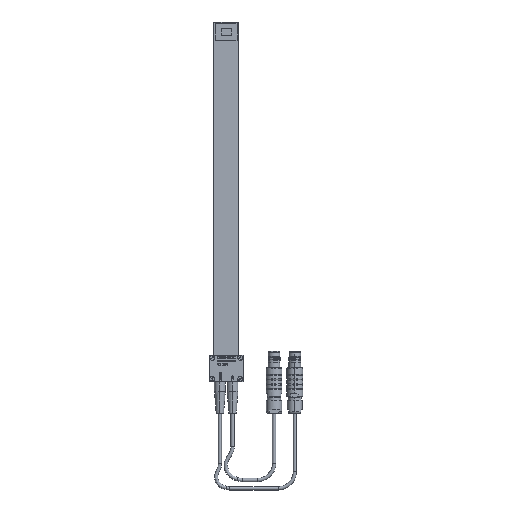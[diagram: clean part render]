
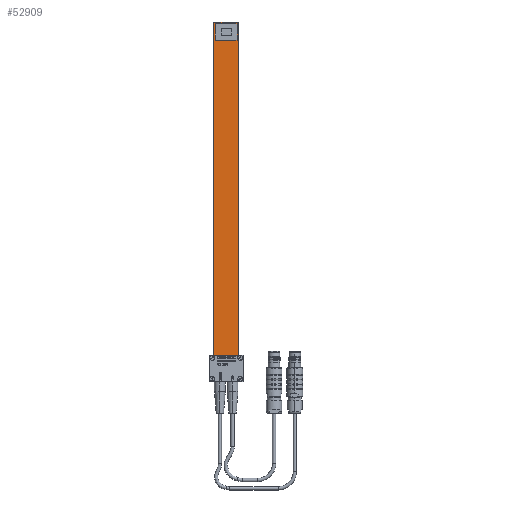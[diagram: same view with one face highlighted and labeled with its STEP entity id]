
A CAD part, top view. The second image highlights one B-rep face of the part: STEP entity #52909.
In plain terms, the highlighted planar face has unit normal (0, 0, 1) as drawn and (0, 1, 0) by its records, which use the part's own axes.
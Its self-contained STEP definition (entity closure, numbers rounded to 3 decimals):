
#52296=DIRECTION('',(0.,0.,1.));
#52297=VECTOR('',#52296,13.);
#52298=CARTESIAN_POINT('',(205.1,0.435,-6.5));
#52299=LINE('',#52298,#52297);
#52303=DIRECTION('',(1.,0.,0.));
#52304=VECTOR('',#52303,9.9);
#52305=CARTESIAN_POINT('',(205.1,0.435,6.5));
#52306=LINE('',#52305,#52304);
#52310=DIRECTION('',(0.,0.,-1.));
#52311=VECTOR('',#52310,13.);
#52312=CARTESIAN_POINT('',(215.,0.435,6.5));
#52313=LINE('',#52312,#52311);
#52317=DIRECTION('',(-1.,0.,0.));
#52318=VECTOR('',#52317,9.9);
#52319=CARTESIAN_POINT('',(215.,0.435,-6.5));
#52320=LINE('',#52319,#52318);
#52352=DIRECTION('',(-1.,0.,0.));
#52353=VECTOR('',#52352,16.);
#52354=CARTESIAN_POINT('',(16.,0.435,-10.));
#52355=LINE('',#52354,#52353);
#52359=DIRECTION('',(0.,0.,-1.));
#52360=VECTOR('',#52359,2.5);
#52361=CARTESIAN_POINT('',(16.,0.435,-7.5));
#52362=LINE('',#52361,#52360);
#52366=DIRECTION('',(-1.,0.,0.));
#52367=VECTOR('',#52366,200.);
#52368=CARTESIAN_POINT('',(216.,0.435,-7.5));
#52369=LINE('',#52368,#52367);
#52373=DIRECTION('',(0.,0.,-1.));
#52374=VECTOR('',#52373,15.);
#52375=CARTESIAN_POINT('',(216.,0.435,7.5));
#52376=LINE('',#52375,#52374);
#52380=DIRECTION('',(1.,0.,0.));
#52381=VECTOR('',#52380,200.);
#52382=CARTESIAN_POINT('',(16.,0.435,7.5));
#52383=LINE('',#52382,#52381);
#52387=DIRECTION('',(0.,0.,-1.));
#52388=VECTOR('',#52387,2.5);
#52389=CARTESIAN_POINT('',(16.,0.435,10.));
#52390=LINE('',#52389,#52388);
#52394=DIRECTION('',(1.,0.,0.));
#52395=VECTOR('',#52394,16.);
#52396=CARTESIAN_POINT('',(0.,0.435,10.));
#52397=LINE('',#52396,#52395);
#52520=DIRECTION('',(0.,0.,1.));
#52521=VECTOR('',#52520,20.);
#52522=CARTESIAN_POINT('',(0.,0.435,-10.));
#52523=LINE('',#52522,#52521);
#52664=CARTESIAN_POINT('',(216.,0.435,7.5));
#52665=CARTESIAN_POINT('',(216.,0.435,-7.5));
#52666=VERTEX_POINT('',#52664);
#52667=VERTEX_POINT('',#52665);
#52684=CARTESIAN_POINT('',(205.1,0.435,-6.5));
#52685=CARTESIAN_POINT('',(205.1,0.435,6.5));
#52686=VERTEX_POINT('',#52684);
#52687=VERTEX_POINT('',#52685);
#52688=CARTESIAN_POINT('',(215.,0.435,6.5));
#52689=VERTEX_POINT('',#52688);
#52690=CARTESIAN_POINT('',(215.,0.435,-6.5));
#52691=VERTEX_POINT('',#52690);
#52700=CARTESIAN_POINT('',(0.,0.435,10.));
#52701=CARTESIAN_POINT('',(16.,0.435,10.));
#52702=VERTEX_POINT('',#52700);
#52703=VERTEX_POINT('',#52701);
#52704=CARTESIAN_POINT('',(16.,0.435,-10.));
#52705=CARTESIAN_POINT('',(0.,0.435,-10.));
#52706=VERTEX_POINT('',#52704);
#52707=VERTEX_POINT('',#52705);
#52717=CARTESIAN_POINT('',(16.,0.435,7.5));
#52719=VERTEX_POINT('',#52717);
#52721=CARTESIAN_POINT('',(16.,0.435,-7.5));
#52723=VERTEX_POINT('',#52721);
#52880=CARTESIAN_POINT('',(0.,0.435,0.));
#52881=DIRECTION('',(0.,1.,0.));
#52882=DIRECTION('',(1.,0.,0.));
#52883=AXIS2_PLACEMENT_3D('',#52880,#52881,#52882);
#52884=PLANE('',#52883);
#52886=ORIENTED_EDGE('',*,*,#52885,.F.);
#52888=ORIENTED_EDGE('',*,*,#52887,.F.);
#52889=ORIENTED_EDGE('',*,*,#52842,.F.);
#52890=ORIENTED_EDGE('',*,*,#52816,.F.);
#52892=ORIENTED_EDGE('',*,*,#52891,.F.);
#52893=ORIENTED_EDGE('',*,*,#52856,.F.);
#52894=ORIENTED_EDGE('',*,*,#52831,.F.);
#52896=ORIENTED_EDGE('',*,*,#52895,.F.);
#52897=EDGE_LOOP('',(#52886,#52888,#52889,#52890,#52892,#52893,#52894,#52896));
#52898=FACE_OUTER_BOUND('',#52897,.F.);
#52900=ORIENTED_EDGE('',*,*,#52899,.T.);
#52902=ORIENTED_EDGE('',*,*,#52901,.T.);
#52904=ORIENTED_EDGE('',*,*,#52903,.T.);
#52906=ORIENTED_EDGE('',*,*,#52905,.T.);
#52907=EDGE_LOOP('',(#52900,#52902,#52904,#52906));
#52908=FACE_BOUND('',#52907,.F.);
#52816=EDGE_CURVE('',#52667,#52723,#52369,.T.);
#52831=EDGE_CURVE('',#52703,#52719,#52390,.T.);
#52842=EDGE_CURVE('',#52723,#52706,#52362,.T.);
#52856=EDGE_CURVE('',#52719,#52666,#52383,.T.);
#52885=EDGE_CURVE('',#52707,#52702,#52523,.T.);
#52887=EDGE_CURVE('',#52706,#52707,#52355,.T.);
#52891=EDGE_CURVE('',#52666,#52667,#52376,.T.);
#52895=EDGE_CURVE('',#52702,#52703,#52397,.T.);
#52899=EDGE_CURVE('',#52686,#52687,#52299,.T.);
#52901=EDGE_CURVE('',#52687,#52689,#52306,.T.);
#52903=EDGE_CURVE('',#52689,#52691,#52313,.T.);
#52905=EDGE_CURVE('',#52691,#52686,#52320,.T.);
#52909=ADVANCED_FACE('',(#52898,#52908),#52884,.T.);
